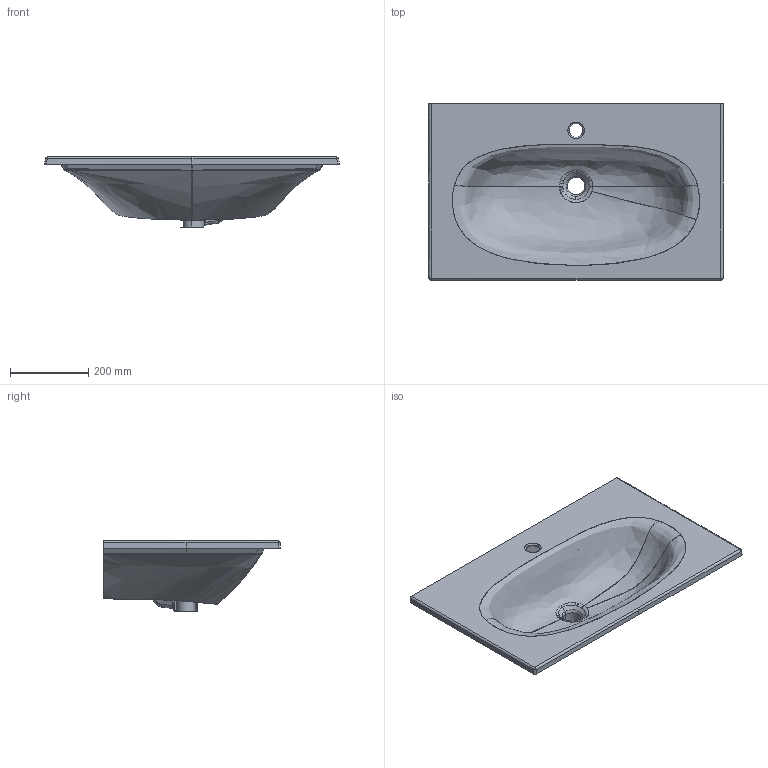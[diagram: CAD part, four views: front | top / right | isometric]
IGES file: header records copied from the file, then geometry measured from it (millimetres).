
Start section: START RECORD GO HERE.
Global section: file name: 7101_3D.igs; native system: DASSAULT SYSTEMES CATIA V5 R19 - www.3ds.com; preprocessor: CATIA Version 5 Release 19 SP 5 ; author: Luca; organization: DESKTOP-V7SON24; date: 20201027.115442; units: millimetre
Bounding box: 751.26 x 450.63 x 178.76 mm (x, y, z)
Surface area: 1044027.1 mm2 (no closed solid volume)
Topology: 0 solids, 0 shells, 388 faces, 1880 edges, 1872 vertices
Faces by surface type: bspline 362, plane 26
